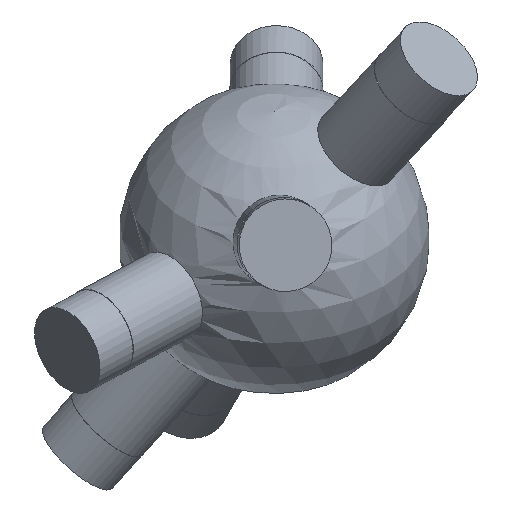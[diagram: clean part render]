
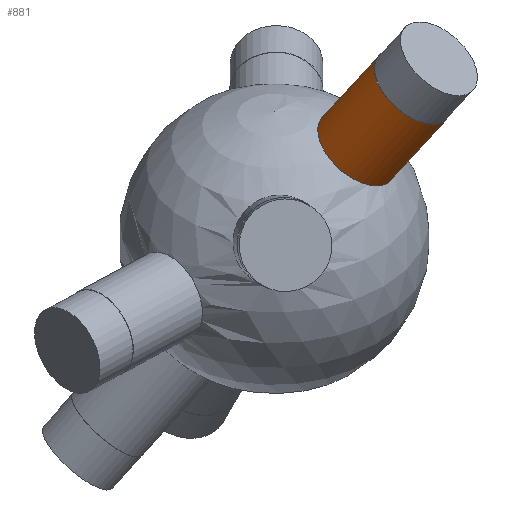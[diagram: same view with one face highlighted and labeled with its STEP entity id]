
A CAD part, isometric view. The second image highlights one B-rep face of the part: STEP entity #881.
In plain terms, the highlighted cylindrical face has radius 6 mm (diameter 12 mm), a full revolution.
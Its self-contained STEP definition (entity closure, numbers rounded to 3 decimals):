
#35 = SPHERICAL_SURFACE('',#36,20.);
#36 = AXIS2_PLACEMENT_3D('',#37,#38,#39);
#37 = CARTESIAN_POINT('',(0.,0.,0.));
#38 = DIRECTION('',(0.,0.,1.));
#39 = DIRECTION('',(1.,0.,-0.));
#509 = EDGE_CURVE('',#510,#510,#512,.T.);
#510 = VERTEX_POINT('',#511);
#511 = CARTESIAN_POINT('',(5.901,-3.851,18.718)
  );
#512 = SURFACE_CURVE('',#513,(#518,#594),.PCURVE_S1.);
#513 = CIRCLE('',#514,6.);
#514 = AXIS2_PLACEMENT_3D('',#515,#516,#517);
#515 = CARTESIAN_POINT('',(5.901,-9.051,
    15.724));
#516 = DIRECTION('',(0.309,-0.474,0.824));
#517 = DIRECTION('',(0.,-0.867,-0.499)
  );
#518 = PCURVE('',#35,#519);
#519 = DEFINITIONAL_REPRESENTATION('',(#520),#593);
#520 = B_SPLINE_CURVE_WITH_KNOTS('',8,(#521,#522,#523,#524,#525,#526,
    #527,#528,#529,#530,#531,#532,#533,#534,#535,#536,#537,#538,#539,
    #540,#541,#542,#543,#544,#545,#546,#547,#548,#549,#550,#551,#552,
    #553,#554,#555,#556,#557,#558,#559,#560,#561,#562,#563,#564,#565,
    #566,#567,#568,#569,#570,#571,#572,#573,#574,#575,#576,#577,#578,
    #579,#580,#581,#582,#583,#584,#585,#586,#587,#588,#589,#590,#591,
    #592),.UNSPECIFIED.,.F.,.F.,(9,7,7,7,7,7,7,7,7,7,9),(3.142,
    3.534,3.902,4.248,4.895,
    5.461,6.452,7.938,8.682,
    9.053,9.425),.UNSPECIFIED.);
#521 = CARTESIAN_POINT('',(5.705,1.211));
#522 = CARTESIAN_POINT('',(5.678,1.222));
#523 = CARTESIAN_POINT('',(5.647,1.232));
#524 = CARTESIAN_POINT('',(5.613,1.242));
#525 = CARTESIAN_POINT('',(5.575,1.25));
#526 = CARTESIAN_POINT('',(5.533,1.258));
#527 = CARTESIAN_POINT('',(5.488,1.263));
#528 = CARTESIAN_POINT('',(5.441,1.268));
#529 = CARTESIAN_POINT('',(5.346,1.273));
#530 = CARTESIAN_POINT('',(5.299,1.274));
#531 = CARTESIAN_POINT('',(5.251,1.274));
#532 = CARTESIAN_POINT('',(5.204,1.273));
#533 = CARTESIAN_POINT('',(5.158,1.27));
#534 = CARTESIAN_POINT('',(5.113,1.266));
#535 = CARTESIAN_POINT('',(5.072,1.26));
#536 = CARTESIAN_POINT('',(4.997,1.247));
#537 = CARTESIAN_POINT('',(4.963,1.24));
#538 = CARTESIAN_POINT('',(4.932,1.232));
#539 = CARTESIAN_POINT('',(4.903,1.223));
#540 = CARTESIAN_POINT('',(4.878,1.213));
#541 = CARTESIAN_POINT('',(4.855,1.203));
#542 = CARTESIAN_POINT('',(4.835,1.193));
#543 = CARTESIAN_POINT('',(4.785,1.161));
#544 = CARTESIAN_POINT('',(4.761,1.138));
#545 = CARTESIAN_POINT('',(4.745,1.115));
#546 = CARTESIAN_POINT('',(4.734,1.091));
#547 = CARTESIAN_POINT('',(4.729,1.067));
#548 = CARTESIAN_POINT('',(4.729,1.042));
#549 = CARTESIAN_POINT('',(4.732,1.018));
#550 = CARTESIAN_POINT('',(4.745,0.973));
#551 = CARTESIAN_POINT('',(4.753,0.952));
#552 = CARTESIAN_POINT('',(4.764,0.932));
#553 = CARTESIAN_POINT('',(4.776,0.912));
#554 = CARTESIAN_POINT('',(4.79,0.892));
#555 = CARTESIAN_POINT('',(4.806,0.873));
#556 = CARTESIAN_POINT('',(4.823,0.855));
#557 = CARTESIAN_POINT('',(4.873,0.808));
#558 = CARTESIAN_POINT('',(4.909,0.779));
#559 = CARTESIAN_POINT('',(4.947,0.754));
#560 = CARTESIAN_POINT('',(4.988,0.731));
#561 = CARTESIAN_POINT('',(5.031,0.712));
#562 = CARTESIAN_POINT('',(5.075,0.696));
#563 = CARTESIAN_POINT('',(5.121,0.684));
#564 = CARTESIAN_POINT('',(5.237,0.662));
#565 = CARTESIAN_POINT('',(5.308,0.658));
#566 = CARTESIAN_POINT('',(5.38,0.662));
#567 = CARTESIAN_POINT('',(5.45,0.675));
#568 = CARTESIAN_POINT('',(5.519,0.696));
#569 = CARTESIAN_POINT('',(5.584,0.725));
#570 = CARTESIAN_POINT('',(5.644,0.76));
#571 = CARTESIAN_POINT('',(5.724,0.823));
#572 = CARTESIAN_POINT('',(5.749,0.845));
#573 = CARTESIAN_POINT('',(5.772,0.869));
#574 = CARTESIAN_POINT('',(5.792,0.894));
#575 = CARTESIAN_POINT('',(5.81,0.919));
#576 = CARTESIAN_POINT('',(5.825,0.946));
#577 = CARTESIAN_POINT('',(5.836,0.973));
#578 = CARTESIAN_POINT('',(5.846,1.015));
#579 = CARTESIAN_POINT('',(5.849,1.029));
#580 = CARTESIAN_POINT('',(5.85,1.043));
#581 = CARTESIAN_POINT('',(5.849,1.057));
#582 = CARTESIAN_POINT('',(5.847,1.071));
#583 = CARTESIAN_POINT('',(5.844,1.084));
#584 = CARTESIAN_POINT('',(5.839,1.098));
#585 = CARTESIAN_POINT('',(5.824,1.125));
#586 = CARTESIAN_POINT('',(5.815,1.139));
#587 = CARTESIAN_POINT('',(5.803,1.152));
#588 = CARTESIAN_POINT('',(5.789,1.165));
#589 = CARTESIAN_POINT('',(5.773,1.177));
#590 = CARTESIAN_POINT('',(5.753,1.189));
#591 = CARTESIAN_POINT('',(5.731,1.2));
#592 = CARTESIAN_POINT('',(5.705,1.211));
#593 = ( GEOMETRIC_REPRESENTATION_CONTEXT(2) 
PARAMETRIC_REPRESENTATION_CONTEXT() REPRESENTATION_CONTEXT('2D SPACE',''
  ) );
#594 = PCURVE('',#595,#600);
#595 = CYLINDRICAL_SURFACE('',#596,6.);
#596 = AXIS2_PLACEMENT_3D('',#597,#598,#599);
#597 = CARTESIAN_POINT('',(0.,0.,0.));
#598 = DIRECTION('',(0.309,-0.474,0.824));
#599 = DIRECTION('',(0.,0.867,0.499)
  );
#600 = DEFINITIONAL_REPRESENTATION('',(#601),#605);
#601 = LINE('',#602,#603);
#602 = CARTESIAN_POINT('',(-3.142,19.079));
#603 = VECTOR('',#604,1.);
#604 = DIRECTION('',(1.,0.));
#605 = ( GEOMETRIC_REPRESENTATION_CONTEXT(2) 
PARAMETRIC_REPRESENTATION_CONTEXT() REPRESENTATION_CONTEXT('2D SPACE',''
  ) );
#881 = ADVANCED_FACE('',(#882),#595,.T.);
#882 = FACE_BOUND('',#883,.T.);
#883 = EDGE_LOOP('',(#884,#907,#934,#935));
#884 = ORIENTED_EDGE('',*,*,#885,.T.);
#885 = EDGE_CURVE('',#510,#886,#888,.T.);
#886 = VERTEX_POINT('',#887);
#887 = CARTESIAN_POINT('',(9.945,-10.054,
    29.495));
#888 = SEAM_CURVE('',#889,(#893,#900),.PCURVE_S1.);
#889 = LINE('',#890,#891);
#890 = CARTESIAN_POINT('',(0.,5.2,
    2.993));
#891 = VECTOR('',#892,1.);
#892 = DIRECTION('',(0.309,-0.474,0.824));
#893 = PCURVE('',#595,#894);
#894 = DEFINITIONAL_REPRESENTATION('',(#895),#899);
#895 = LINE('',#896,#897);
#896 = CARTESIAN_POINT('',(6.283,-0.));
#897 = VECTOR('',#898,1.);
#898 = DIRECTION('',(0.,1.));
#899 = ( GEOMETRIC_REPRESENTATION_CONTEXT(2) 
PARAMETRIC_REPRESENTATION_CONTEXT() REPRESENTATION_CONTEXT('2D SPACE',''
  ) );
#900 = PCURVE('',#595,#901);
#901 = DEFINITIONAL_REPRESENTATION('',(#902),#906);
#902 = LINE('',#903,#904);
#903 = CARTESIAN_POINT('',(0.,-0.));
#904 = VECTOR('',#905,1.);
#905 = DIRECTION('',(0.,1.));
#906 = ( GEOMETRIC_REPRESENTATION_CONTEXT(2) 
PARAMETRIC_REPRESENTATION_CONTEXT() REPRESENTATION_CONTEXT('2D SPACE',''
  ) );
#907 = ORIENTED_EDGE('',*,*,#908,.F.);
#908 = EDGE_CURVE('',#886,#886,#909,.T.);
#909 = SURFACE_CURVE('',#910,(#915,#922),.PCURVE_S1.);
#910 = CIRCLE('',#911,6.);
#911 = AXIS2_PLACEMENT_3D('',#912,#913,#914);
#912 = CARTESIAN_POINT('',(9.945,-15.254,
    26.501));
#913 = DIRECTION('',(0.309,-0.474,0.824));
#914 = DIRECTION('',(0.,0.867,0.499)
  );
#915 = PCURVE('',#595,#916);
#916 = DEFINITIONAL_REPRESENTATION('',(#917),#921);
#917 = LINE('',#918,#919);
#918 = CARTESIAN_POINT('',(0.,32.155));
#919 = VECTOR('',#920,1.);
#920 = DIRECTION('',(1.,0.));
#921 = ( GEOMETRIC_REPRESENTATION_CONTEXT(2) 
PARAMETRIC_REPRESENTATION_CONTEXT() REPRESENTATION_CONTEXT('2D SPACE',''
  ) );
#922 = PCURVE('',#923,#928);
#923 = PLANE('',#924);
#924 = AXIS2_PLACEMENT_3D('',#925,#926,#927);
#925 = CARTESIAN_POINT('',(9.945,-15.254,
    26.501));
#926 = DIRECTION('',(0.309,-0.474,0.824));
#927 = DIRECTION('',(0.,0.867,0.499)
  );
#928 = DEFINITIONAL_REPRESENTATION('',(#929),#933);
#929 = CIRCLE('',#930,6.);
#930 = AXIS2_PLACEMENT_2D('',#931,#932);
#931 = CARTESIAN_POINT('',(0.,0.));
#932 = DIRECTION('',(1.,0.));
#933 = ( GEOMETRIC_REPRESENTATION_CONTEXT(2) 
PARAMETRIC_REPRESENTATION_CONTEXT() REPRESENTATION_CONTEXT('2D SPACE',''
  ) );
#934 = ORIENTED_EDGE('',*,*,#885,.F.);
#935 = ORIENTED_EDGE('',*,*,#509,.T.);
